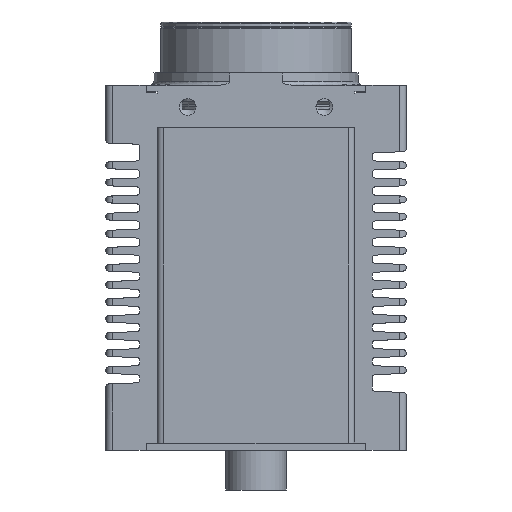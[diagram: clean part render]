
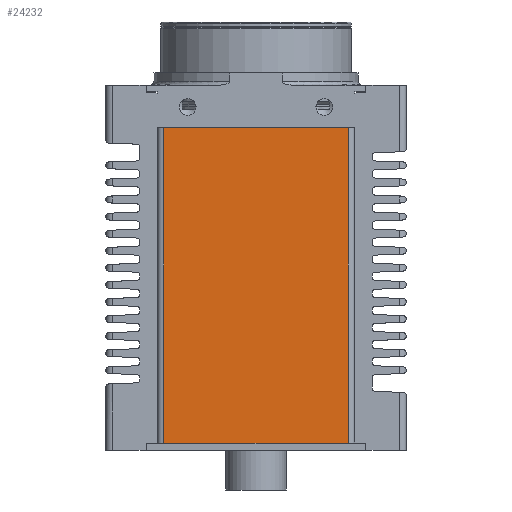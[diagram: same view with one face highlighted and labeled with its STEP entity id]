
A CAD part, front view. The second image highlights one B-rep face of the part: STEP entity #24232.
In plain terms, the highlighted planar face has unit normal (0, -1, 0).
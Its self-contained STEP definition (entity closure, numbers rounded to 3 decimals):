
#1346=LINE('',#40268,#3044);
#1348=LINE('',#40278,#3046);
#1349=LINE('',#40280,#3047);
#1350=LINE('',#40281,#3048);
#3044=VECTOR('',#31342,10.);
#3046=VECTOR('',#31358,10.);
#3047=VECTOR('',#31359,10.);
#3048=VECTOR('',#31360,10.);
#5784=FACE_OUTER_BOUND('',#7230,.T.);
#7230=EDGE_LOOP('',(#18303,#18304,#18305,#18306));
#10504=VERTEX_POINT('',#40265);
#10505=VERTEX_POINT('',#40267);
#10506=VERTEX_POINT('',#40277);
#10507=VERTEX_POINT('',#40279);
#13395=EDGE_CURVE('',#10505,#10504,#1346,.T.);
#13398=EDGE_CURVE('',#10506,#10504,#1348,.T.);
#13399=EDGE_CURVE('',#10506,#10507,#1349,.T.);
#13400=EDGE_CURVE('',#10507,#10505,#1350,.T.);
#18303=ORIENTED_EDGE('',*,*,#13395,.T.);
#18304=ORIENTED_EDGE('',*,*,#13398,.F.);
#18305=ORIENTED_EDGE('',*,*,#13399,.T.);
#18306=ORIENTED_EDGE('',*,*,#13400,.T.);
#21931=PLANE('',#26435);
#24232=ADVANCED_FACE('',(#5784),#21931,.T.);
#26435=AXIS2_PLACEMENT_3D('',#40276,#31356,#31357);
#31342=DIRECTION('',(-1.,0.,0.));
#31356=DIRECTION('center_axis',(0.,-1.,0.));
#31357=DIRECTION('ref_axis',(0.,0.,1.));
#31358=DIRECTION('',(0.,0.,1.));
#31359=DIRECTION('',(1.,0.,0.));
#31360=DIRECTION('',(0.,0.,1.));
#40265=CARTESIAN_POINT('',(-13.5,-14.4,-0.05));
#40267=CARTESIAN_POINT('',(13.5,-14.4,-0.05));
#40268=CARTESIAN_POINT('',(-13.5,-14.4,-0.05));
#40276=CARTESIAN_POINT('Origin',(0.,-14.4,-46.25));
#40277=CARTESIAN_POINT('',(-13.5,-14.4,-46.25));
#40278=CARTESIAN_POINT('',(-13.5,-14.4,-46.25));
#40279=CARTESIAN_POINT('',(13.5,-14.4,-46.25));
#40280=CARTESIAN_POINT('',(0.,-14.4,-46.25));
#40281=CARTESIAN_POINT('',(13.5,-14.4,-46.25));
